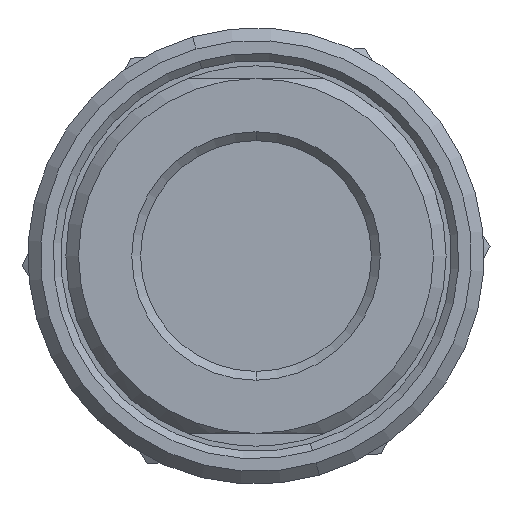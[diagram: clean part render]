
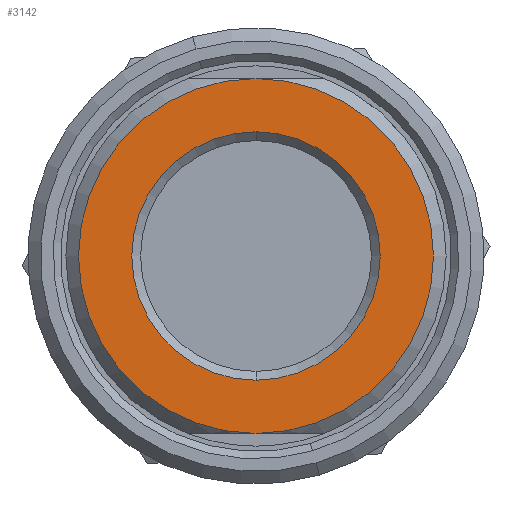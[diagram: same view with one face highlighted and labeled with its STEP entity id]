
A CAD part, front view. The second image highlights one B-rep face of the part: STEP entity #3142.
In plain terms, the highlighted planar face has unit normal (0, -1, 0).
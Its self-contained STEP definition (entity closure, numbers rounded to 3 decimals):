
#71 = CIRCLE ( 'NONE', #2452, 4.9 ) ;
#91 = CIRCLE ( 'NONE', #2458, 7. ) ;
#98 = CIRCLE ( 'NONE', #2463, 4.9 ) ;
#101 = CIRCLE ( 'NONE', #2462, 7. ) ;
#448 = PLANE ( 'NONE',  #1405 ) ;
#455 = CARTESIAN_POINT ( 'NONE',  ( 0., 0., 0. ) ) ;
#456 = DIRECTION ( 'NONE',  ( 0., -1., 0. ) ) ;
#457 = DIRECTION ( 'NONE',  ( 0., 0., -1. ) ) ;
#784 = EDGE_LOOP ( 'NONE', ( #846, #847 ) ) ;
#794 = EDGE_LOOP ( 'NONE', ( #848, #849 ) ) ;
#846 = ORIENTED_EDGE ( 'NONE', *, *, #1107, .T. ) ;
#847 = ORIENTED_EDGE ( 'NONE', *, *, #1098, .T. ) ;
#848 = ORIENTED_EDGE ( 'NONE', *, *, #1084, .T. ) ;
#849 = ORIENTED_EDGE ( 'NONE', *, *, #1108, .T. ) ;
#1084 = EDGE_CURVE ( 'NONE', #2967, #2974, #71, .T. ) ;
#1098 = EDGE_CURVE ( 'NONE', #2958, #2959, #91, .T. ) ;
#1107 = EDGE_CURVE ( 'NONE', #2959, #2958, #101, .T. ) ;
#1108 = EDGE_CURVE ( 'NONE', #2974, #2967, #98, .T. ) ;
#1405 = AXIS2_PLACEMENT_3D ( 'NONE', #455, #456, #457 ) ;
#1501 = CARTESIAN_POINT ( 'NONE',  ( 0., 0., -4.9 ) ) ;
#1540 = CARTESIAN_POINT ( 'NONE',  ( 0., 0., -7. ) ) ;
#1541 = CARTESIAN_POINT ( 'NONE',  ( 0., 0., 7. ) ) ;
#1553 = CARTESIAN_POINT ( 'NONE',  ( 0., 0., 4.9 ) ) ;
#2169 = CARTESIAN_POINT ( 'NONE',  ( 0., 0., 0. ) ) ;
#2170 = DIRECTION ( 'NONE',  ( 0., -1., 0. ) ) ;
#2171 = DIRECTION ( 'NONE',  ( 0., 0., -1. ) ) ;
#2198 = CARTESIAN_POINT ( 'NONE',  ( 0., 0., 0. ) ) ;
#2199 = DIRECTION ( 'NONE',  ( 0., -1., 0. ) ) ;
#2200 = DIRECTION ( 'NONE',  ( 0., 0., -1. ) ) ;
#2201 = CARTESIAN_POINT ( 'NONE',  ( 0., 0., 0. ) ) ;
#2202 = DIRECTION ( 'NONE',  ( 0., 1., 0. ) ) ;
#2203 = DIRECTION ( 'NONE',  ( 0., 0., 1. ) ) ;
#2452 = AXIS2_PLACEMENT_3D ( 'NONE', #3416, #3417, #3418 ) ;
#2458 = AXIS2_PLACEMENT_3D ( 'NONE', #2169, #2170, #2171 ) ;
#2462 = AXIS2_PLACEMENT_3D ( 'NONE', #2198, #2199, #2200 ) ;
#2463 = AXIS2_PLACEMENT_3D ( 'NONE', #2201, #2202, #2203 ) ;
#2958 = VERTEX_POINT ( 'NONE', #1540 ) ;
#2959 = VERTEX_POINT ( 'NONE', #1541 ) ;
#2967 = VERTEX_POINT ( 'NONE', #1501 ) ;
#2974 = VERTEX_POINT ( 'NONE', #1553 ) ;
#3083 = FACE_OUTER_BOUND ( 'NONE', #784, .T. ) ;
#3084 = FACE_BOUND ( 'NONE', #794, .T. ) ;
#3142 = ADVANCED_FACE ( 'NONE', ( #3083, #3084 ), #448, .T. ) ;
#3416 = CARTESIAN_POINT ( 'NONE',  ( 0., 0., 0. ) ) ;
#3417 = DIRECTION ( 'NONE',  ( 0., 1., 0. ) ) ;
#3418 = DIRECTION ( 'NONE',  ( 0., 0., 1. ) ) ;
